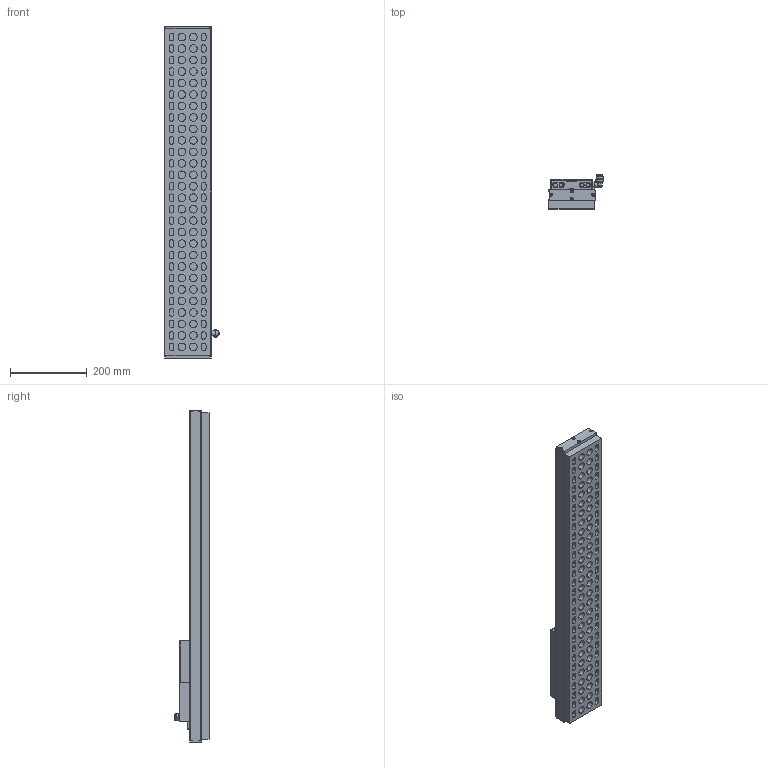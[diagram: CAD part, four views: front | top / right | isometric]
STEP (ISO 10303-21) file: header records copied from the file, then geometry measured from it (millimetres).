
FILE_DESCRIPTION (( 'STEP AP214' ), '1' );
FILE_NAME ('310 800 012.STEP', '2018-01-10T09:10:29', ( '' ), ( '' ), 'SwSTEP 2.0', 'SolidWorks 2017', '' );
FILE_SCHEMA (( 'AUTOMOTIVE_DESIGN' ));
Length unit declared in the file: millimetre
Products named in the file (1): 310 800 012
Bounding box: 142.75 x 89 x 868 mm (x, y, z)
Volume: 5190148.7 mm3; surface area: 468047 mm2
Topology: 1 solids, 2 shells, 948 faces, 2227 edges, 1436 vertices
Faces by surface type: cylinder 454, plane 410, torus 39, cone 36, bspline 6, sphere 3
Entity records: 38222 total; most frequent: CARTESIAN_POINT 5222, DIRECTION 5073, ORIENTED_EDGE 4444, EDGE_CURVE 2222, AXIS2_PLACEMENT_3D 1976, VERTEX_POINT 1433, LINE 1121, VECTOR 1121
